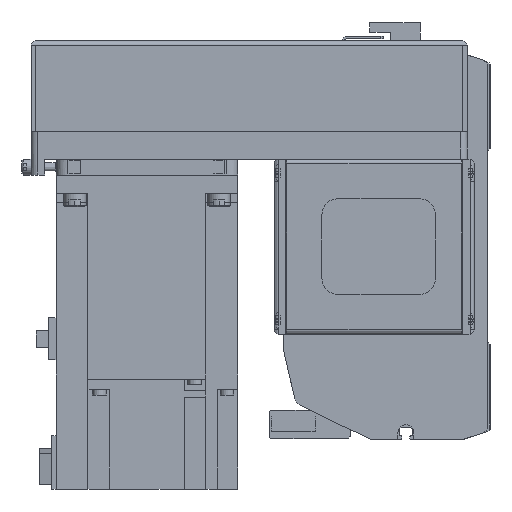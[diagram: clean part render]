
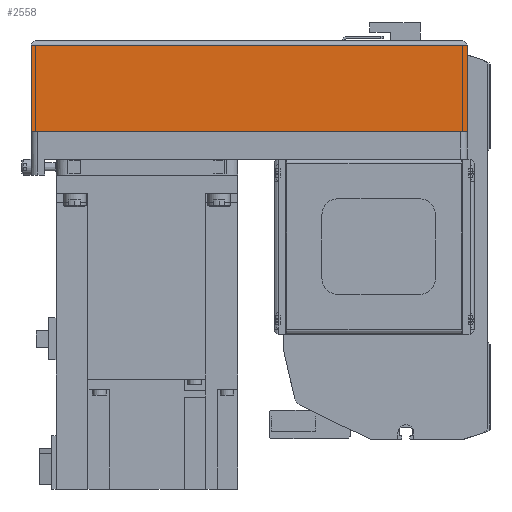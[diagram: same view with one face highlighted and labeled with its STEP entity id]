
A CAD part, left-side view. The second image highlights one B-rep face of the part: STEP entity #2558.
In plain terms, the highlighted planar face has unit normal (-1, 0, 0) as drawn and (0, 1, 0) by its records, which use the part's own axes.
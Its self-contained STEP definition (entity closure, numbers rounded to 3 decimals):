
#2558 = ADVANCED_FACE( '', ( #5696 ), #5697, .T. );
#5696 = FACE_OUTER_BOUND( '', #9376, .T. );
#5697 = PLANE( '', #9377 );
#9376 = EDGE_LOOP( '', ( #16687, #16688, #16689, #16690 ) );
#9377 = AXIS2_PLACEMENT_3D( '', #16691, #16692, #16693 );
#16687 = ORIENTED_EDGE( '', *, *, #22741, .F. );
#16688 = ORIENTED_EDGE( '', *, *, #21543, .F. );
#16689 = ORIENTED_EDGE( '', *, *, #21374, .T. );
#16690 = ORIENTED_EDGE( '', *, *, #23193, .T. );
#16691 = CARTESIAN_POINT( '', ( -192., 40., -50. ) );
#16692 = DIRECTION( '', ( 0., 1., 0. ) );
#16693 = DIRECTION( '', ( 0., 0., 1. ) );
#21374 = EDGE_CURVE( '', #25742, #25747, #25749, .T. );
#21543 = EDGE_CURVE( '', #25742, #26038, #26039, .T. );
#22741 = EDGE_CURVE( '', #26038, #26665, #27919, .T. );
#23193 = EDGE_CURVE( '', #25747, #26665, #28559, .T. );
#25742 = VERTEX_POINT( '', #31892 );
#25747 = VERTEX_POINT( '', #31899 );
#25749 = LINE( '', #31902, #31903 );
#26038 = VERTEX_POINT( '', #32731 );
#26039 = LINE( '', #32732, #32733 );
#26665 = VERTEX_POINT( '', #33662 );
#27919 = LINE( '', #35507, #35508 );
#28559 = LINE( '', #36560, #36561 );
#31892 = CARTESIAN_POINT( '', ( -192., 40., -50. ) );
#31899 = CARTESIAN_POINT( '', ( -192., 40., -12.1 ) );
#31902 = CARTESIAN_POINT( '', ( -192., 40., -50. ) );
#31903 = VECTOR( '', #39830, 1000. );
#32731 = CARTESIAN_POINT( '', ( 0., 40., -50. ) );
#32732 = CARTESIAN_POINT( '', ( -192., 40., -50. ) );
#32733 = VECTOR( '', #40008, 1000. );
#33662 = CARTESIAN_POINT( '', ( 0., 40., -12.1 ) );
#35507 = CARTESIAN_POINT( '', ( 0., 40., -50. ) );
#35508 = VECTOR( '', #41494, 1000. );
#36560 = CARTESIAN_POINT( '', ( -192., 40., -12.1 ) );
#36561 = VECTOR( '', #42016, 1000. );
#39830 = DIRECTION( '', ( 0., 0., 1. ) );
#40008 = DIRECTION( '', ( 1., 0., 0. ) );
#41494 = DIRECTION( '', ( 0., 0., 1. ) );
#42016 = DIRECTION( '', ( 1., 0., 0. ) );
